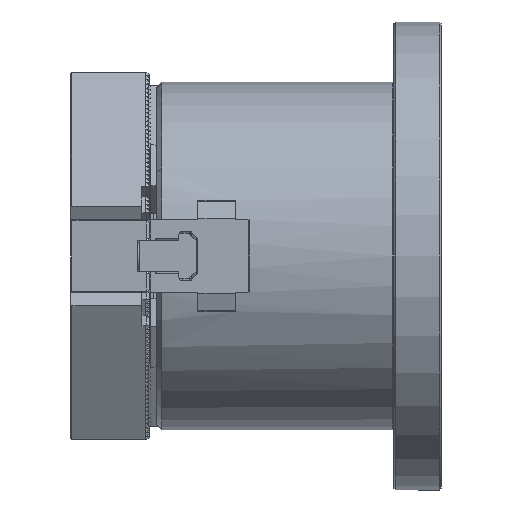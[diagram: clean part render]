
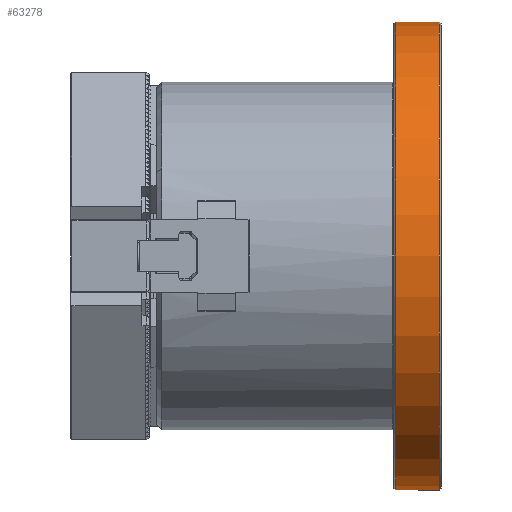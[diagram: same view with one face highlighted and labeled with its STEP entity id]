
A CAD part, left-side view. The second image highlights one B-rep face of the part: STEP entity #63278.
In plain terms, the highlighted cylindrical face has radius 74 mm (diameter 148 mm), a partial arc.
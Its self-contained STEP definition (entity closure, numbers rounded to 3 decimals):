
#1470 = VERTEX_POINT ( 'NONE', #55853 ) ;
#3792 = EDGE_LOOP ( 'NONE', ( #4150, #32286, #54509, #4591 ) ) ;
#4150 = ORIENTED_EDGE ( 'NONE', *, *, #40762, .T. ) ;
#4591 = ORIENTED_EDGE ( 'NONE', *, *, #52807, .F. ) ;
#4687 = CARTESIAN_POINT ( 'NONE',  ( 0., -0.6, -74. ) ) ;
#4962 = CARTESIAN_POINT ( 'NONE',  ( 0., 25.154, 0. ) ) ;
#7984 = CARTESIAN_POINT ( 'NONE',  ( 0., -14.4, 0. ) ) ;
#10223 = DIRECTION ( 'NONE',  ( 0., 0., -1. ) ) ;
#14249 = VERTEX_POINT ( 'NONE', #50194 ) ;
#14649 = LINE ( 'NONE', #62184, #59014 ) ;
#18337 = CARTESIAN_POINT ( 'NONE',  ( 0., -0.6, 0. ) ) ;
#20429 = EDGE_CURVE ( 'NONE', #63486, #1470, #14649, .T. ) ;
#22581 = AXIS2_PLACEMENT_3D ( 'NONE', #4962, #35580, #10223 ) ;
#24679 = DIRECTION ( 'NONE',  ( 0., 0., -1. ) ) ;
#25271 = DIRECTION ( 'NONE',  ( 0., 1., 0. ) ) ;
#26448 = VERTEX_POINT ( 'NONE', #4687 ) ;
#27276 = FACE_OUTER_BOUND ( 'NONE', #3792, .T. ) ;
#30573 = CARTESIAN_POINT ( 'NONE',  ( 0., -14.4, 74. ) ) ;
#32286 = ORIENTED_EDGE ( 'NONE', *, *, #20429, .T. ) ;
#35580 = DIRECTION ( 'NONE',  ( 0., 1., 0. ) ) ;
#40613 = AXIS2_PLACEMENT_3D ( 'NONE', #18337, #62421, #24679 ) ;
#40762 = EDGE_CURVE ( 'NONE', #14249, #63486, #47880, .T. ) ;
#47515 = LINE ( 'NONE', #63873, #67170 ) ;
#47880 = CIRCLE ( 'NONE', #59241, 74. ) ;
#50194 = CARTESIAN_POINT ( 'NONE',  ( 0., -14.4, -74. ) ) ;
#52807 = EDGE_CURVE ( 'NONE', #14249, #26448, #47515, .T. ) ;
#52906 = DIRECTION ( 'NONE',  ( 0., 0., -1. ) ) ;
#54509 = ORIENTED_EDGE ( 'NONE', *, *, #73178, .F. ) ;
#55420 = CIRCLE ( 'NONE', #40613, 74. ) ;
#55853 = CARTESIAN_POINT ( 'NONE',  ( 0., -0.6, 74. ) ) ;
#59014 = VECTOR ( 'NONE', #25271, 1000. ) ;
#59241 = AXIS2_PLACEMENT_3D ( 'NONE', #7984, #77617, #52906 ) ;
#62184 = CARTESIAN_POINT ( 'NONE',  ( 0., 25.154, 74. ) ) ;
#62421 = DIRECTION ( 'NONE',  ( 0., 1., 0. ) ) ;
#63278 = ADVANCED_FACE ( 'NONE', ( #27276 ), #73555, .T. ) ;
#63486 = VERTEX_POINT ( 'NONE', #30573 ) ;
#63873 = CARTESIAN_POINT ( 'NONE',  ( 0., 25.154, -74. ) ) ;
#67170 = VECTOR ( 'NONE', #76476, 1000. ) ;
#73178 = EDGE_CURVE ( 'NONE', #26448, #1470, #55420, .T. ) ;
#73555 = CYLINDRICAL_SURFACE ( 'NONE', #22581, 74. ) ;
#76476 = DIRECTION ( 'NONE',  ( 0., 1., 0. ) ) ;
#77617 = DIRECTION ( 'NONE',  ( 0., 1., 0. ) ) ;
